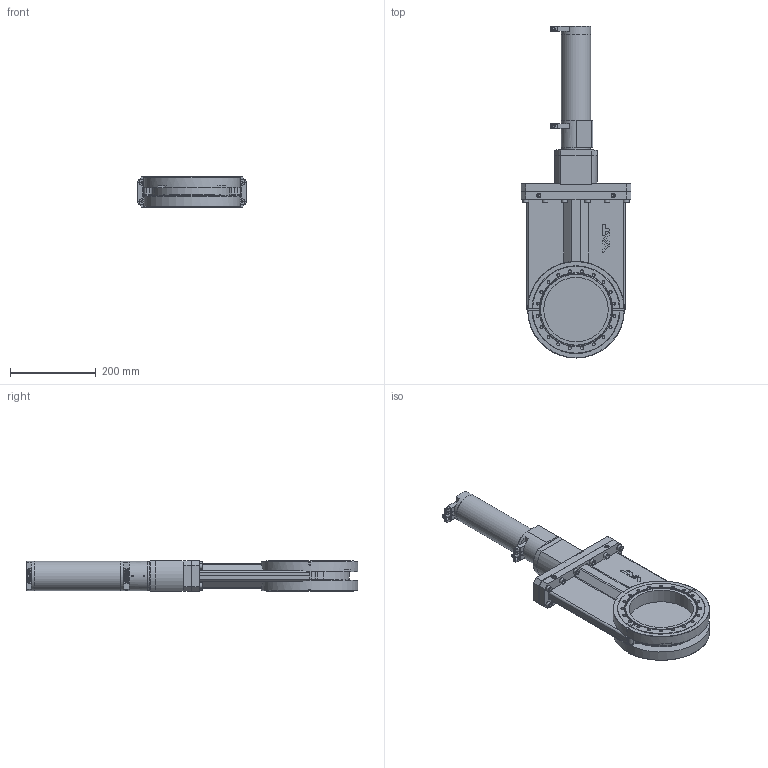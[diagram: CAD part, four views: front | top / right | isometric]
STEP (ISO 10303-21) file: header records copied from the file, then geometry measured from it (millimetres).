
FILE_DESCRIPTION(/* description */ (''),/* implementation_level */ '2;1');
FILE_NAME(/* name */ '1107818480_203.stp',/* time_stamp */ '2015-02-27T13:43:08+01:00',/* author */ (''),/* organization */ (''),/* preprocessor_version */ 'ST-DEVELOPER v11',/* originating_system */ 'SIEMENS PLM Software NX 7.5',/* authorisation */ '');
FILE_SCHEMA (('AP203_CONFIGURATION_CONTROLLED_3D_DESIGN_OF_MECHANICAL_PARTS_AND_ASSEMBLIES_MIM_LF'));
Length unit declared in the file: millimetre
Products named in the file (37): N-6121-032.2; 98926-01.1; 80477-01.1; N-7100-005_2.1; 92838-01_4.2; 80478-01.1; N-6195-007.2; 93115-01.1; 87105-01.1; 73662-01.1; 577083_19670ID; 560524; 405777_19679ID; 405777_19681ID; 764625_19669ID; 764632_19673ID; 367561.2; 83699-01.1; 81413-01.1; 83414-01.1; 77379-01.1; N-6016-478.2; 577309_19675ID; 545335; 446989; 224837.1; 764635_MODEL; 98926-R1.1; 87090-R1.22_NX-ARRAGMNTclose_ATM_DOOR Hub 3,45mm (ohne Feder); 87090-R1.22_NX-ARRAGMNTunbetaetigt Hub 0mm (mit Feder); 751817_NX-ARRAGMNTMassbild Ventil geschlossen; 78856-R1.3; 78855-r1.9_NX-ARRAGMNTMassbild, alle Innenteile unterdrueckt; 773080_MODEL; 405784_NX-ARRAGMNTGehäuseschale_kpl_bearbeitet_(Ø
8.6); 577413_NX-ARRAGMNTGehäuse_kpl_Massbild; 789247
Assembly tree (58 placements, depth 4):
  789247
    577413_NX-ARRAGMNTGehäuse_kpl_Massbild
      405784_NX-ARRAGMNTGehäuseschale_kpl_bearbeitet_(Ø
8.6)
        405777_19681ID
        405777_19679ID
        560524
      545335  x2
      577309_19675ID
      773080_MODEL
        577083_19670ID
    78855-r1.9_NX-ARRAGMNTMassbild, alle Innenteile unterdrueckt  x2
      N-6016-478.2
      78856-R1.3
        73662-01.1
      77379-01.1
    751817_NX-ARRAGMNTMassbild Ventil geschlossen
      87090-R1.22_NX-ARRAGMNTunbetaetigt Hub 0mm (mit Feder)
        87105-01.1
        93115-01.1
        N-6195-007.2
        80478-01.1
        92838-01_4.2
        N-7100-005_2.1
        80477-01.1
      87090-R1.22_NX-ARRAGMNTclose_ATM_DOOR Hub 3,45mm (ohne Feder)
        87105-01.1
        93115-01.1
        N-6195-007.2
        80478-01.1
        N-7100-005_2.1
        80477-01.1
      83414-01.1  x2
      81413-01.1
      98926-R1.1
        98926-01.1
        N-6121-032.2
      83699-01.1
    224837.1  x12
    764635_MODEL
      367561.2  x2
      764632_19673ID
      764625_19669ID
    446989
Bounding box: 255 x 773.33 x 70 mm (x, y, z)
Volume: 2721087.1 mm3; surface area: 781833.5 mm2
Topology: 76 solids, 76 shells, 1646 faces, 4191 edges, 2767 vertices
Faces by surface type: plane 815, cylinder 544, cone 166, bspline 69, torus 33, extrusion 16, revolution 2, sphere 1
Full cylindrical faces by diameter (mm): 1.875 x2, 2.115 x8, 2.475 x6, 2.5 x6, 2.56 x2, 2.575 x2, 3 x7, 3.04 x4, 3.3 x5, 3.5 x10, 4.2 x3, 4.7 x4, 4.8 x1, 5 x2, 5.5 x2, 5.6 x2, 5.65 x2, 5.7 x2, 5.8 x4, 6 x1, 6.475 x2, 6.66 x12, 6.7 x12, 6.8 x66, 6.98 x2, 7.008 x1, 7.018 x1, 7.045 x2, 7.925 x4, 7.984 x2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
Entity records: 43108 total; most frequent: CARTESIAN_POINT 10679, DIRECTION 5527, ORIENTED_EDGE 5242, EDGE_CURVE 2621, AXIS2_PLACEMENT_3D 2145, VERTEX_POINT 1954, EDGE_LOOP 1658, VECTOR 1236
